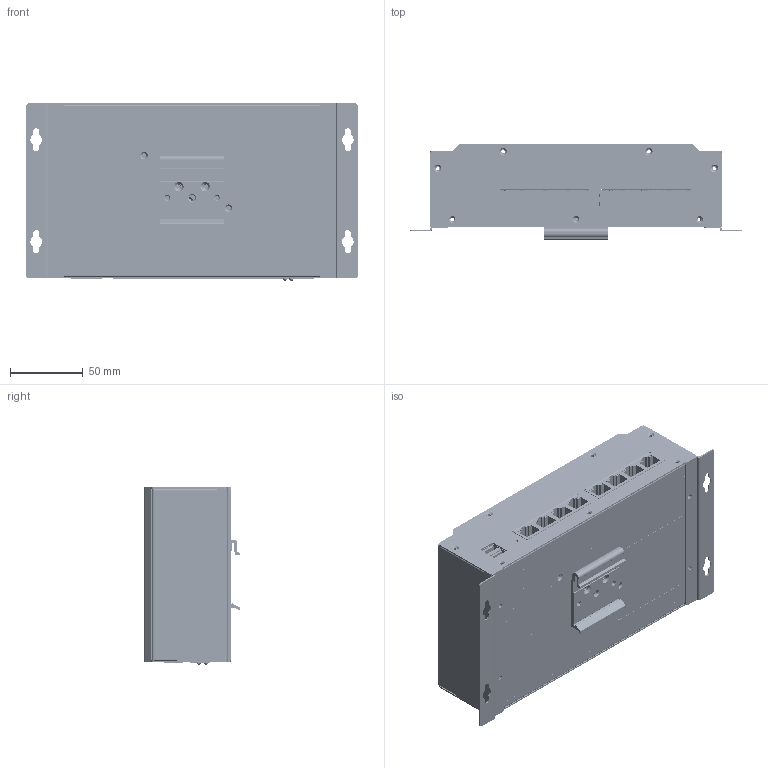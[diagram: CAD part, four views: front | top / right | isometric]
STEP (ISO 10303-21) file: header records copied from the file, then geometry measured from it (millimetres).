
FILE_DESCRIPTION((''),'2;1');
FILE_NAME('UC-8416','2014-07-16T',('Laban_Liu'),(''),'PRO/ENGINEER BY PARAMETRIC TECHNOLOGY CORPORATION, 2013230','PRO/ENGINEER BY PARAMETRIC TECHNOLOGY CORPORATION, 2013230','');
FILE_SCHEMA(('AUTOMOTIVE_DESIGN { 1 0 10303 214 1 1 1 1 }'));
Products named in the file (1): UC-8416
Bounding box: 228 x 65.34 x 122.01 mm (x, y, z)
Volume: 240354.6 mm3; surface area: 303329.4 mm2
Topology: 2 solids, 172 shells, 8537 faces, 21613 edges, 14288 vertices
Faces by surface type: plane 5415, cylinder 2900, extrusion 124, cone 66, torus 22, bspline 8, sphere 2
Entity records: 325895 total; most frequent: CARTESIAN_POINT 48349, DIRECTION 44253, ORIENTED_EDGE 43222, PRESENTATION_STYLE_ASSIGNMENT 21614, STYLED_ITEM 21614, CURVE_STYLE 21612, EDGE_CURVE 21611, VECTOR 15416
